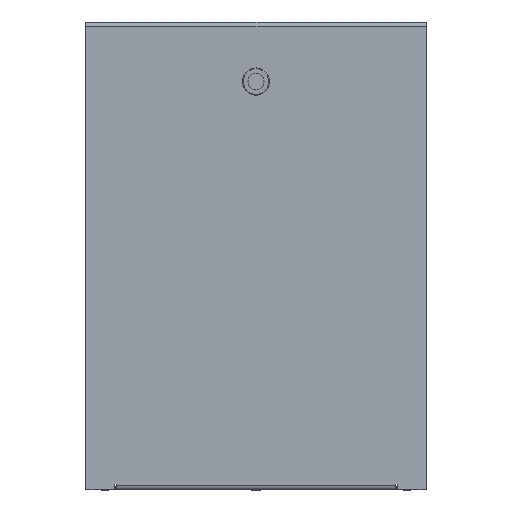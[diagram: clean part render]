
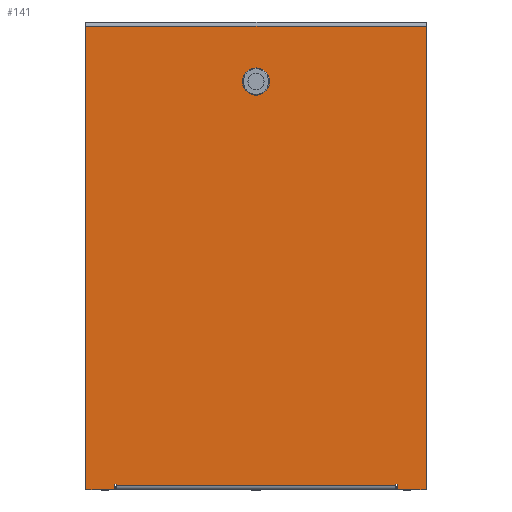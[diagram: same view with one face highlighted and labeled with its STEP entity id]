
A CAD part, left-side view. The second image highlights one B-rep face of the part: STEP entity #141.
In plain terms, the highlighted planar face has unit normal (-1, 0, 0).
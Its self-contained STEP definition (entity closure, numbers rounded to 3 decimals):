
#65 = ORIENTED_EDGE ( 'NONE', *, *, #5861, .F. ) ;
#77 = CARTESIAN_POINT ( 'NONE',  ( -350., -164., -486. ) ) ;
#88 = CARTESIAN_POINT ( 'NONE',  ( -350., -200., 54. ) ) ;
#97 = VECTOR ( 'NONE', #2285, 1000. ) ;
#141 = ADVANCED_FACE ( 'NONE', ( #734, #5247 ), #991, .T. ) ;
#257 = LINE ( 'NONE', #6590, #97 ) ;
#307 = CARTESIAN_POINT ( 'NONE',  ( -350., 0., -11. ) ) ;
#349 = LINE ( 'NONE', #2630, #4558 ) ;
#581 = EDGE_CURVE ( 'NONE', #4693, #4693, #2019, .T. ) ;
#734 = FACE_BOUND ( 'NONE', #3739, .T. ) ;
#826 = ORIENTED_EDGE ( 'NONE', *, *, #1451, .T. ) ;
#991 = PLANE ( 'NONE',  #3382 ) ;
#999 = ORIENTED_EDGE ( 'NONE', *, *, #2161, .T. ) ;
#1110 = DIRECTION ( 'NONE',  ( 0., 1., 0. ) ) ;
#1295 = CARTESIAN_POINT ( 'NONE',  ( -350., 0., -1. ) ) ;
#1451 = EDGE_CURVE ( 'NONE', #3317, #5452, #5160, .T. ) ;
#1582 = CARTESIAN_POINT ( 'NONE',  ( -350., -166., 0. ) ) ;
#1641 = AXIS2_PLACEMENT_3D ( 'NONE', #307, #5758, #3590 ) ;
#1742 = VERTEX_POINT ( 'NONE', #88 ) ;
#1802 = VERTEX_POINT ( 'NONE', #3245 ) ;
#1818 = DIRECTION ( 'NONE',  ( 0., 1., 0. ) ) ;
#1854 = EDGE_CURVE ( 'NONE', #5161, #3908, #4209, .T. ) ;
#1877 = VECTOR ( 'NONE', #6716, 1000. ) ;
#1956 = CARTESIAN_POINT ( 'NONE',  ( -350., 164., 0. ) ) ;
#1960 = ORIENTED_EDGE ( 'NONE', *, *, #6941, .T. ) ;
#2019 = CIRCLE ( 'NONE', #1641, 10. ) ;
#2108 = CARTESIAN_POINT ( 'NONE',  ( -350., 164., -484. ) ) ;
#2116 = DIRECTION ( 'NONE',  ( 0., -1., 0. ) ) ;
#2124 = VECTOR ( 'NONE', #7004, 1000. ) ;
#2149 = DIRECTION ( 'NONE',  ( 0., 0., -1. ) ) ;
#2155 = VERTEX_POINT ( 'NONE', #6455 ) ;
#2161 = EDGE_CURVE ( 'NONE', #6513, #2217, #4707, .T. ) ;
#2168 = LINE ( 'NONE', #5782, #6464 ) ;
#2195 = CARTESIAN_POINT ( 'NONE',  ( -350., -200., 54. ) ) ;
#2217 = VERTEX_POINT ( 'NONE', #5962 ) ;
#2285 = DIRECTION ( 'NONE',  ( 0., -1., 0. ) ) ;
#2312 = VECTOR ( 'NONE', #2149, 1000. ) ;
#2376 = CARTESIAN_POINT ( 'NONE',  ( -350., -200., -491. ) ) ;
#2554 = DIRECTION ( 'NONE',  ( 0., 0., 1. ) ) ;
#2630 = CARTESIAN_POINT ( 'NONE',  ( -350., 200., -491. ) ) ;
#2631 = ORIENTED_EDGE ( 'NONE', *, *, #3524, .F. ) ;
#2661 = CARTESIAN_POINT ( 'NONE',  ( -350., 164., -486. ) ) ;
#2695 = CARTESIAN_POINT ( 'NONE',  ( -350., -166., -491. ) ) ;
#2712 = DIRECTION ( 'NONE',  ( 0., -1., 0. ) ) ;
#2750 = EDGE_CURVE ( 'NONE', #1742, #2155, #6882, .T. ) ;
#2819 = ORIENTED_EDGE ( 'NONE', *, *, #2750, .T. ) ;
#2961 = CARTESIAN_POINT ( 'NONE',  ( -350., 166., 0. ) ) ;
#3125 = DIRECTION ( 'NONE',  ( -1., 0., 0. ) ) ;
#3192 = DIRECTION ( 'NONE',  ( 0., 0., 1. ) ) ;
#3245 = CARTESIAN_POINT ( 'NONE',  ( -350., 166., -484. ) ) ;
#3317 = VERTEX_POINT ( 'NONE', #2661 ) ;
#3382 = AXIS2_PLACEMENT_3D ( 'NONE', #3670, #3125, #3192 ) ;
#3524 = EDGE_CURVE ( 'NONE', #5542, #5200, #4053, .T. ) ;
#3590 = DIRECTION ( 'NONE',  ( 0., 0., 1. ) ) ;
#3670 = CARTESIAN_POINT ( 'NONE',  ( -350., 0., 0. ) ) ;
#3708 = VECTOR ( 'NONE', #2116, 1000. ) ;
#3733 = LINE ( 'NONE', #1582, #2312 ) ;
#3739 = EDGE_LOOP ( 'NONE', ( #4160 ) ) ;
#3883 = VECTOR ( 'NONE', #1818, 1000. ) ;
#3908 = VERTEX_POINT ( 'NONE', #4680 ) ;
#4045 = VECTOR ( 'NONE', #5441, 1000. ) ;
#4053 = LINE ( 'NONE', #5584, #3883 ) ;
#4160 = ORIENTED_EDGE ( 'NONE', *, *, #581, .F. ) ;
#4209 = LINE ( 'NONE', #4922, #6897 ) ;
#4335 = ORIENTED_EDGE ( 'NONE', *, *, #1854, .F. ) ;
#4425 = CARTESIAN_POINT ( 'NONE',  ( -350., 164., -486. ) ) ;
#4507 = ORIENTED_EDGE ( 'NONE', *, *, #5566, .T. ) ;
#4528 = EDGE_CURVE ( 'NONE', #5159, #3317, #4850, .T. ) ;
#4558 = VECTOR ( 'NONE', #5354, 1000. ) ;
#4680 = CARTESIAN_POINT ( 'NONE',  ( -350., 200., -491. ) ) ;
#4693 = VERTEX_POINT ( 'NONE', #1295 ) ;
#4707 = LINE ( 'NONE', #5941, #6144 ) ;
#4838 = ORIENTED_EDGE ( 'NONE', *, *, #4528, .T. ) ;
#4850 = LINE ( 'NONE', #1956, #5030 ) ;
#4922 = CARTESIAN_POINT ( 'NONE',  ( -350., -200., -491. ) ) ;
#5018 = LINE ( 'NONE', #5914, #2124 ) ;
#5030 = VECTOR ( 'NONE', #5199, 1000. ) ;
#5159 = VERTEX_POINT ( 'NONE', #2108 ) ;
#5160 = LINE ( 'NONE', #4425, #3708 ) ;
#5161 = VERTEX_POINT ( 'NONE', #6422 ) ;
#5185 = ORIENTED_EDGE ( 'NONE', *, *, #5329, .T. ) ;
#5199 = DIRECTION ( 'NONE',  ( 0., 0., -1. ) ) ;
#5200 = VERTEX_POINT ( 'NONE', #2695 ) ;
#5247 = FACE_OUTER_BOUND ( 'NONE', #6108, .T. ) ;
#5284 = EDGE_CURVE ( 'NONE', #2217, #5200, #3733, .T. ) ;
#5329 = EDGE_CURVE ( 'NONE', #5452, #6513, #5018, .T. ) ;
#5354 = DIRECTION ( 'NONE',  ( 0., 0., 1. ) ) ;
#5441 = DIRECTION ( 'NONE',  ( 0., 1., 0. ) ) ;
#5452 = VERTEX_POINT ( 'NONE', #77 ) ;
#5524 = ORIENTED_EDGE ( 'NONE', *, *, #6636, .T. ) ;
#5542 = VERTEX_POINT ( 'NONE', #2376 ) ;
#5566 = EDGE_CURVE ( 'NONE', #5161, #1802, #6005, .T. ) ;
#5584 = CARTESIAN_POINT ( 'NONE',  ( -350., -200., -491. ) ) ;
#5758 = DIRECTION ( 'NONE',  ( -1., 0., 0. ) ) ;
#5780 = CARTESIAN_POINT ( 'NONE',  ( -350., -164., -484. ) ) ;
#5782 = CARTESIAN_POINT ( 'NONE',  ( -350., -200., -491. ) ) ;
#5861 = EDGE_CURVE ( 'NONE', #3908, #2155, #349, .T. ) ;
#5914 = CARTESIAN_POINT ( 'NONE',  ( -350., -164., 0. ) ) ;
#5941 = CARTESIAN_POINT ( 'NONE',  ( -350., 0., -484. ) ) ;
#5962 = CARTESIAN_POINT ( 'NONE',  ( -350., -166., -484. ) ) ;
#6005 = LINE ( 'NONE', #2961, #1877 ) ;
#6108 = EDGE_LOOP ( 'NONE', ( #4335, #4507, #1960, #4838, #826, #5185, #999, #6771, #2631, #5524, #2819, #65 ) ) ;
#6144 = VECTOR ( 'NONE', #2712, 1000. ) ;
#6422 = CARTESIAN_POINT ( 'NONE',  ( -350., 166., -491. ) ) ;
#6455 = CARTESIAN_POINT ( 'NONE',  ( -350., 200., 54. ) ) ;
#6464 = VECTOR ( 'NONE', #2554, 1000. ) ;
#6513 = VERTEX_POINT ( 'NONE', #5780 ) ;
#6590 = CARTESIAN_POINT ( 'NONE',  ( -350., 0., -484. ) ) ;
#6636 = EDGE_CURVE ( 'NONE', #5542, #1742, #2168, .T. ) ;
#6716 = DIRECTION ( 'NONE',  ( 0., 0., 1. ) ) ;
#6771 = ORIENTED_EDGE ( 'NONE', *, *, #5284, .T. ) ;
#6882 = LINE ( 'NONE', #2195, #4045 ) ;
#6897 = VECTOR ( 'NONE', #1110, 1000. ) ;
#6941 = EDGE_CURVE ( 'NONE', #1802, #5159, #257, .T. ) ;
#7004 = DIRECTION ( 'NONE',  ( 0., 0., 1. ) ) ;
